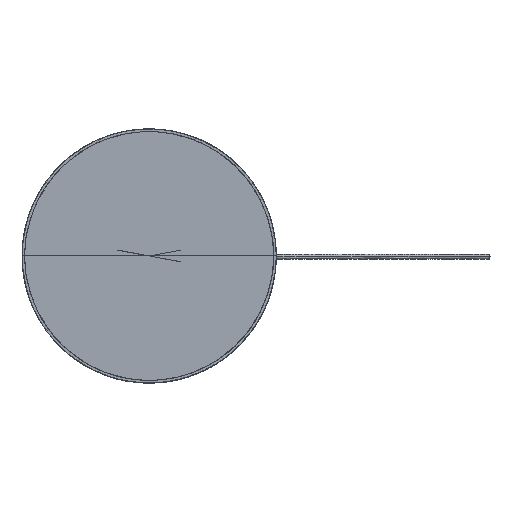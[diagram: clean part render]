
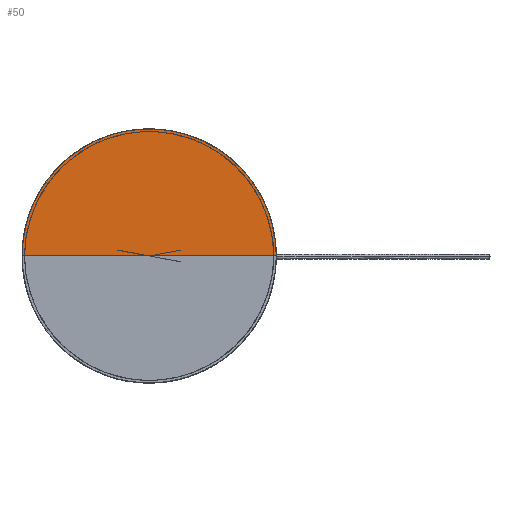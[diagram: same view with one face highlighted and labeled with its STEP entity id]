
A CAD part, top view. The second image highlights one B-rep face of the part: STEP entity #50.
In plain terms, the highlighted free-form (B-spline) face has degree [2, 1] with [5, 2] control points.
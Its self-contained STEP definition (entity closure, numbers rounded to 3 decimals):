
#50=ADVANCED_FACE('',(#78),#373,.T.);
#78=FACE_OUTER_BOUND('',#106,.T.);
#106=EDGE_LOOP('',(#193,#194,#195));
#193=ORIENTED_EDGE('',*,*,#267,.T.);
#194=ORIENTED_EDGE('',*,*,#258,.F.);
#195=ORIENTED_EDGE('',*,*,#250,.T.);
#250=EDGE_CURVE('',#343,#350,#314,.T.);
#258=EDGE_CURVE('',#343,#348,#284,.T.);
#267=EDGE_CURVE('',#350,#348,#289,.T.);
#284=B_SPLINE_CURVE_WITH_KNOTS('',1,(#5293,#5294),.UNSPECIFIED.,.F.,.F.,
(2,2),(0.,925.397),.UNSPECIFIED.);
#289=B_SPLINE_CURVE_WITH_KNOTS('',1,(#5323,#5324),.UNSPECIFIED.,.F.,.F.,
(2,2),(0.,925.397),.UNSPECIFIED.);
#314=(
BOUNDED_CURVE()
B_SPLINE_CURVE(2,(#5265,#5266,#5267,#5268,#5269),.UNSPECIFIED.,.F.,.F.)
B_SPLINE_CURVE_WITH_KNOTS((3,2,3),(0.,37.57,75.141),
 .UNSPECIFIED.)
CURVE()
GEOMETRIC_REPRESENTATION_ITEM()
RATIONAL_B_SPLINE_CURVE((1.,0.707,1.,0.707,1.))
REPRESENTATION_ITEM('')
);
#343=VERTEX_POINT('',#5255);
#348=VERTEX_POINT('',#5260);
#350=VERTEX_POINT('',#5262);
#373=(
BOUNDED_SURFACE()
B_SPLINE_SURFACE(2,1,((#5195,#5196),(#5197,#5198),(#5199,#5200),(#5201,
#5202),(#5203,#5204)),.UNSPECIFIED.,.F.,.F.,.F.)
B_SPLINE_SURFACE_WITH_KNOTS((3,2,3),(2,2),(0.,36.82,73.641),
(0.,925.397),.UNSPECIFIED.)
GEOMETRIC_REPRESENTATION_ITEM()
RATIONAL_B_SPLINE_SURFACE(((1.,1.),(0.707,0.707),
(1.,1.),(0.707,0.707),(1.,1.)))
REPRESENTATION_ITEM('')
SURFACE()
);
#5195=CARTESIAN_POINT('',(346.814,0.,628.494));
#5196=CARTESIAN_POINT('',(199.532,0.,628.494));
#5197=CARTESIAN_POINT('',(346.814,147.282,628.494));
#5198=CARTESIAN_POINT('',(199.532,0.,628.494));
#5199=CARTESIAN_POINT('',(199.532,147.282,628.494));
#5200=CARTESIAN_POINT('',(199.532,0.,628.494));
#5201=CARTESIAN_POINT('',(52.251,147.282,628.494));
#5202=CARTESIAN_POINT('',(199.532,0.,628.494));
#5203=CARTESIAN_POINT('',(52.251,0.,628.494));
#5204=CARTESIAN_POINT('',(199.532,0.,628.494));
#5255=CARTESIAN_POINT('',(346.814,0.,628.494));
#5260=CARTESIAN_POINT('',(199.532,0.,628.494));
#5262=CARTESIAN_POINT('',(52.251,0.,628.494));
#5265=CARTESIAN_POINT('',(346.814,0.,628.494));
#5266=CARTESIAN_POINT('',(346.814,147.282,628.494));
#5267=CARTESIAN_POINT('',(199.532,147.282,628.494));
#5268=CARTESIAN_POINT('',(52.251,147.282,628.494));
#5269=CARTESIAN_POINT('',(52.251,0.,628.494));
#5293=CARTESIAN_POINT('',(346.814,0.,628.494));
#5294=CARTESIAN_POINT('',(199.532,0.,628.494));
#5323=CARTESIAN_POINT('',(52.251,0.,628.494));
#5324=CARTESIAN_POINT('',(199.532,0.,628.494));
